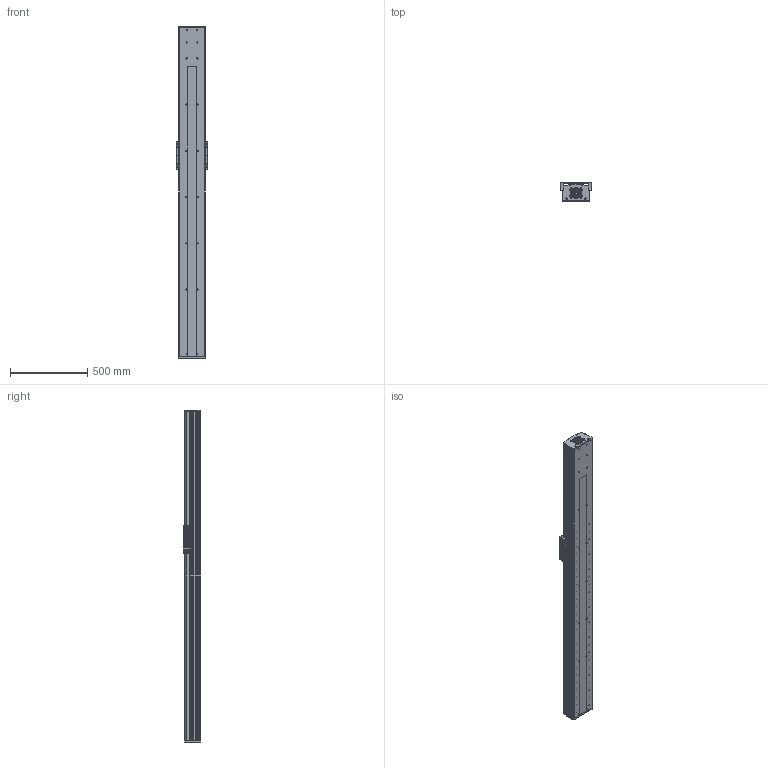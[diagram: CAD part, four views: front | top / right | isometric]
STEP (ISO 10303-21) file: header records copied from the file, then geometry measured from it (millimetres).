
FILE_DESCRIPTION (( 'STEP AP203' ), '1' );
FILE_NAME ('CF175-2-P1800.STEP', '2016-02-23T07:48:24', ( 'Sky123.Org' ), ( 'Sky123.Org' ), 'SwSTEP 2.0', 'SolidWorks 2015', '' );
FILE_SCHEMA (( 'CONFIG_CONTROL_DESIGN' ));
Length unit declared in the file: millimetre
Products named in the file (13): 175-2侜督80萇儂釱; 175-2耜啣; CF175-2-P1800; 175-2盓傅釱; CF175-2蹟譫釱; Y1-CF175-2-P1200-1547裔啣; Y1-CF175-2-P1200-1547臏倰第; Y1-HGR20-1500絳寢; CF-HGH20CA賑輸; CF175-2賑雄啣; SFU2505-4; 175-2梓袧嘐隅釱; X1-SFS2525-1185
Assembly tree (16 placements, depth 2):
  CF175-2-P1800
    CF-HGH20CA賑輸  x4
    SFU2505-4
    X1-SFS2525-1185
    175-2耜啣
    175-2盓傅釱
    CF175-2蹟譫釱
    Y1-CF175-2-P1200-1547裔啣
    Y1-CF175-2-P1200-1547臏倰第
    Y1-HGR20-1500絳寢  x2
    CF175-2賑雄啣
    175-2梓袧嘐隅釱
    175-2侜督80萇儂釱
Bounding box: 200 x 116.8 x 2155 mm (x, y, z)
Volume: 14531572.8 mm3; surface area: 3906604.4 mm2
Topology: 20 solids, 20 shells, 1575 faces, 4137 edges, 2740 vertices
Faces by surface type: cylinder 857, plane 694, cone 20, bspline 4
Entity records: 46222 total; most frequent: CARTESIAN_POINT 11888, DIRECTION 7184, ORIENTED_EDGE 6612, EDGE_CURVE 3306, AXIS2_PLACEMENT_3D 2725, VERTEX_POINT 2188, LINE 1734, VECTOR 1734
